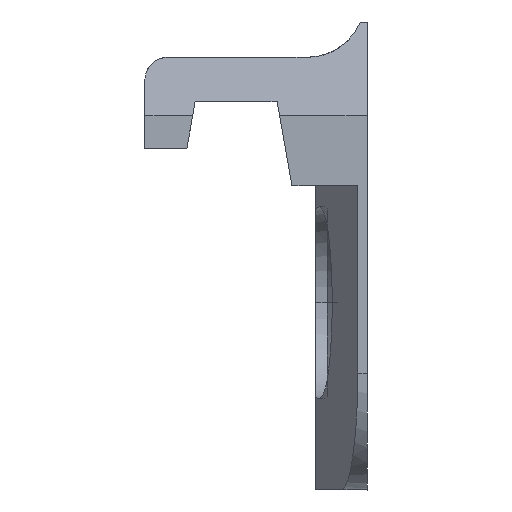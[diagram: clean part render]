
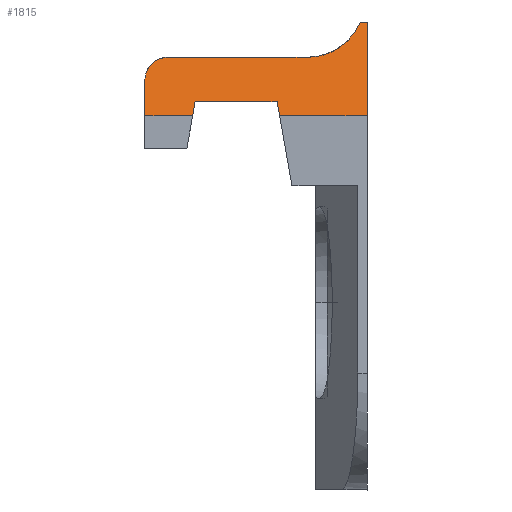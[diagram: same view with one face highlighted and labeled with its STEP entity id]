
A CAD part, front view. The second image highlights one B-rep face of the part: STEP entity #1815.
In plain terms, the highlighted planar face has unit normal (0, -0.574, 0.819).
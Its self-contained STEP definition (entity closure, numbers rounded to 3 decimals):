
#75 = AXIS2_PLACEMENT_3D ( 'NONE', #925, #928, #929 ) ;
#306 = EDGE_CURVE ( 'NONE', #2818, #2709, #2312, .T. ) ;
#322 = EDGE_CURVE ( 'NONE', #3044, #2895, #2299, .T. ) ;
#326 = EDGE_CURVE ( 'NONE', #2895, #2892, #2297, .T. ) ;
#328 = EDGE_CURVE ( 'NONE', #2709, #2888, #2295, .T. ) ;
#331 = EDGE_CURVE ( 'NONE', #2888, #2885, #2597, .T. ) ;
#334 = EDGE_CURVE ( 'NONE', #2885, #3042, #2274, .T. ) ;
#337 = EDGE_CURVE ( 'NONE', #3042, #3044, #2601, .T. ) ;
#340 = EDGE_CURVE ( 'NONE', #2696, #2823, #2261, .T. ) ;
#342 = EDGE_CURVE ( 'NONE', #2892, #2680, #2257, .T. ) ;
#348 = EDGE_CURVE ( 'NONE', #2680, #2696, #2265, .T. ) ;
#364 = EDGE_CURVE ( 'NONE', #2823, #2818, #2225, .T. ) ;
#574 = CARTESIAN_POINT ( 'NONE',  ( 0., 280.386, 226.385 ) ) ;
#575 = DIRECTION ( 'NONE',  ( 0., 0.819, 0.574 ) ) ;
#620 = CARTESIAN_POINT ( 'NONE',  ( -9.5, 277.849, 224.608 ) ) ;
#621 = DIRECTION ( 'NONE',  ( 0., -0.819, -0.574 ) ) ;
#626 = CARTESIAN_POINT ( 'NONE',  ( -8.5, -31.5, 8. ) ) ;
#628 = CARTESIAN_POINT ( 'NONE',  ( -0.3, -25.787, 12. ) ) ;
#629 = DIRECTION ( 'NONE',  ( 1., 0., 0. ) ) ;
#633 = DIRECTION ( 'NONE',  ( -1., 0., 0. ) ) ;
#636 = CARTESIAN_POINT ( 'NONE',  ( -0.3, -25.787, 12. ) ) ;
#639 = CARTESIAN_POINT ( 'NONE',  ( -8.5, -27.93, 10.5 ) ) ;
#640 = CARTESIAN_POINT ( 'NONE',  ( -0.679, -27.124, 11.064 ) ) ;
#641 = CARTESIAN_POINT ( 'NONE',  ( -1.515, -27.93, 10.5 ) ) ;
#642 = CARTESIAN_POINT ( 'NONE',  ( -2.525, -27.93, 10.5 ) ) ;
#648 = DIRECTION ( 'NONE',  ( -1., 0., 0. ) ) ;
#651 = CARTESIAN_POINT ( 'NONE',  ( -8.5, -27.93, 10.5 ) ) ;
#654 = CARTESIAN_POINT ( 'NONE',  ( -3.85, -30.643, 8.6 ) ) ;
#655 = CARTESIAN_POINT ( 'NONE',  ( -9.086, -27.93, 10.5 ) ) ;
#656 = CARTESIAN_POINT ( 'NONE',  ( -9.5, -28.521, 10.086 ) ) ;
#657 = CARTESIAN_POINT ( 'NONE',  ( -9.5, -29.358, 9.5 ) ) ;
#662 = CARTESIAN_POINT ( 'NONE',  ( -41.454, 273.929, 221.864 ) ) ;
#663 = DIRECTION ( 'NONE',  ( 0.101, -0.815, -0.571 ) ) ;
#666 = CARTESIAN_POINT ( 'NONE',  ( 30.467, 275.656, 223.073 ) ) ;
#667 = DIRECTION ( 'NONE',  ( 0.101, 0.815, 0.571 ) ) ;
#679 = DIRECTION ( 'NONE',  ( 1., 0., 0. ) ) ;
#704 = CARTESIAN_POINT ( 'NONE',  ( -8.5, -31.5, 8. ) ) ;
#715 = DIRECTION ( 'NONE',  ( 1., 0., 0. ) ) ;
#925 = CARTESIAN_POINT ( 'NONE',  ( -8.5, -31.5, 8. ) ) ;
#926 = PLANE ( 'NONE',  #75 ) ;
#928 = DIRECTION ( 'NONE',  ( 0., 0.574, -0.819 ) ) ;
#929 = DIRECTION ( 'NONE',  ( 0., 0.819, 0.574 ) ) ;
#1124 = CARTESIAN_POINT ( 'NONE',  ( -7.35, -30.643, 8.6 ) ) ;
#1130 = CARTESIAN_POINT ( 'NONE',  ( -3.85, -30.643, 8.6 ) ) ;
#1135 = CARTESIAN_POINT ( 'NONE',  ( 0., -25.787, 12. ) ) ;
#1158 = CARTESIAN_POINT ( 'NONE',  ( 0., -31.5, 8. ) ) ;
#1163 = CARTESIAN_POINT ( 'NONE',  ( -3.744, -31.5, 8. ) ) ;
#1203 = CARTESIAN_POINT ( 'NONE',  ( -2.525, -27.93, 10.5 ) ) ;
#1205 = CARTESIAN_POINT ( 'NONE',  ( -0.3, -25.787, 12. ) ) ;
#1207 = CARTESIAN_POINT ( 'NONE',  ( -7.456, -31.5, 8. ) ) ;
#1209 = CARTESIAN_POINT ( 'NONE',  ( -9.5, -31.5, 8. ) ) ;
#1226 = CARTESIAN_POINT ( 'NONE',  ( -8.5, -27.93, 10.5 ) ) ;
#1228 = CARTESIAN_POINT ( 'NONE',  ( -9.5, -29.358, 9.5 ) ) ;
#1294 = ORIENTED_EDGE ( 'NONE', *, *, #328, .T. ) ;
#1295 = ORIENTED_EDGE ( 'NONE', *, *, #306, .T. ) ;
#1296 = ORIENTED_EDGE ( 'NONE', *, *, #364, .T. ) ;
#1297 = ORIENTED_EDGE ( 'NONE', *, *, #340, .T. ) ;
#1298 = ORIENTED_EDGE ( 'NONE', *, *, #348, .T. ) ;
#1299 = ORIENTED_EDGE ( 'NONE', *, *, #342, .T. ) ;
#1300 = ORIENTED_EDGE ( 'NONE', *, *, #326, .T. ) ;
#1301 = ORIENTED_EDGE ( 'NONE', *, *, #322, .T. ) ;
#1302 = ORIENTED_EDGE ( 'NONE', *, *, #337, .T. ) ;
#1303 = ORIENTED_EDGE ( 'NONE', *, *, #334, .T. ) ;
#1304 = ORIENTED_EDGE ( 'NONE', *, *, #331, .T. ) ;
#1584 = EDGE_LOOP ( 'NONE', ( #1304, #1303, #1302, #1301, #1300, #1299, #1298, #1297, #1296, #1295, #1294 ) ) ;
#1815 = ADVANCED_FACE ( 'NONE', ( #1954 ), #926, .F. ) ;
#1954 = FACE_OUTER_BOUND ( 'NONE', #1584, .T. ) ;
#2219 = VECTOR ( 'NONE', #715, 1000. ) ;
#2225 = LINE ( 'NONE', #704, #2219 ) ;
#2245 = VECTOR ( 'NONE', #679, 1000. ) ;
#2256 = VECTOR ( 'NONE', #667, 1000. ) ;
#2257 = LINE ( 'NONE', #666, #2256 ) ;
#2260 = VECTOR ( 'NONE', #663, 1000. ) ;
#2261 = LINE ( 'NONE', #662, #2260 ) ;
#2265 = LINE ( 'NONE', #654, #2245 ) ;
#2270 = VECTOR ( 'NONE', #648, 1000. ) ;
#2274 = LINE ( 'NONE', #639, #2270 ) ;
#2279 = VECTOR ( 'NONE', #633, 1000. ) ;
#2283 = VECTOR ( 'NONE', #629, 1000. ) ;
#2293 = VECTOR ( 'NONE', #621, 1000. ) ;
#2295 = LINE ( 'NONE', #628, #2279 ) ;
#2297 = LINE ( 'NONE', #626, #2283 ) ;
#2299 = LINE ( 'NONE', #620, #2293 ) ;
#2311 = VECTOR ( 'NONE', #575, 1000. ) ;
#2312 = LINE ( 'NONE', #574, #2311 ) ;
#2597 =( BOUNDED_CURVE ( )  B_SPLINE_CURVE ( 3, ( #636, #640, #641, #642 ),
 .UNSPECIFIED., .F., .T. ) 
 B_SPLINE_CURVE_WITH_KNOTS ( ( 4, 4 ),
 ( 5.097, 6.283 ),
 .UNSPECIFIED. ) 
 CURVE ( )  GEOMETRIC_REPRESENTATION_ITEM ( )  RATIONAL_B_SPLINE_CURVE ( ( 1., 0.886, 0.886, 1. ) ) 
 REPRESENTATION_ITEM ( '' )  );
#2601 =( BOUNDED_CURVE ( )  B_SPLINE_CURVE ( 3, ( #651, #655, #656, #657 ),
 .UNSPECIFIED., .F., .T. ) 
 B_SPLINE_CURVE_WITH_KNOTS ( ( 4, 4 ),
 ( 3.142, 4.712 ),
 .UNSPECIFIED. ) 
 CURVE ( )  GEOMETRIC_REPRESENTATION_ITEM ( )  RATIONAL_B_SPLINE_CURVE ( ( 1., 0.805, 0.805, 1. ) ) 
 REPRESENTATION_ITEM ( '' )  );
#2680 = VERTEX_POINT ( 'NONE', #1124 ) ;
#2696 = VERTEX_POINT ( 'NONE', #1130 ) ;
#2709 = VERTEX_POINT ( 'NONE', #1135 ) ;
#2818 = VERTEX_POINT ( 'NONE', #1158 ) ;
#2823 = VERTEX_POINT ( 'NONE', #1163 ) ;
#2885 = VERTEX_POINT ( 'NONE', #1203 ) ;
#2888 = VERTEX_POINT ( 'NONE', #1205 ) ;
#2892 = VERTEX_POINT ( 'NONE', #1207 ) ;
#2895 = VERTEX_POINT ( 'NONE', #1209 ) ;
#3042 = VERTEX_POINT ( 'NONE', #1226 ) ;
#3044 = VERTEX_POINT ( 'NONE', #1228 ) ;
